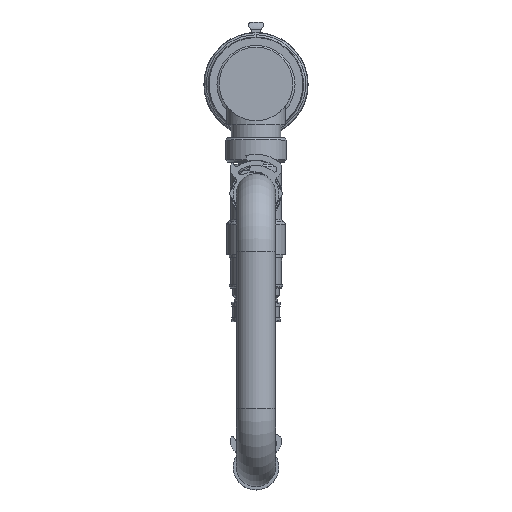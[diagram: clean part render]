
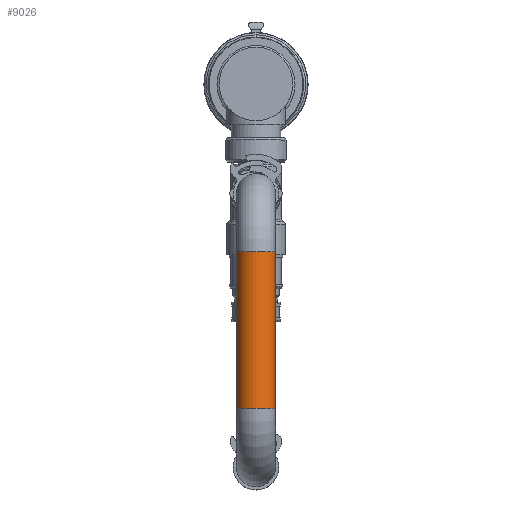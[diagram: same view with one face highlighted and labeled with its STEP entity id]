
A CAD part, top view. The second image highlights one B-rep face of the part: STEP entity #9026.
In plain terms, the highlighted cylindrical face has radius 12.7 mm (diameter 25.4 mm), a full revolution.
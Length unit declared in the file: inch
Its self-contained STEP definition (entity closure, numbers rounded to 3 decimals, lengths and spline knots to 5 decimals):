
#361 = CARTESIAN_POINT ( 'NONE',  ( 0., -4.29175, 7.75 ) ) ;
#490 = DIRECTION ( 'NONE',  ( -1., 0., 0. ) ) ;
#590 = AXIS2_PLACEMENT_3D ( 'NONE', #361, #13693, #2265 ) ;
#1848 = ORIENTED_EDGE ( 'NONE', *, *, #20437, .F. ) ;
#2265 = DIRECTION ( 'NONE',  ( 1., 0., 0. ) ) ;
#4471 = VERTEX_POINT ( 'NONE', #22840 ) ;
#6093 = CARTESIAN_POINT ( 'NONE',  ( 0., -4.29175, 7.75 ) ) ;
#8954 = DIRECTION ( 'NONE',  ( 0., 1., 0. ) ) ;
#9026 = ADVANCED_FACE ( 'NONE', ( #18576, #19770 ), #23050, .T. ) ;
#10255 = ORIENTED_EDGE ( 'NONE', *, *, #13509, .T. ) ;
#12325 = AXIS2_PLACEMENT_3D ( 'NONE', #6093, #21473, #490 ) ;
#13509 = EDGE_CURVE ( 'NONE', #17049, #17049, #15330, .T. ) ;
#13693 = DIRECTION ( 'NONE',  ( 0., 1., 0. ) ) ;
#14859 = EDGE_LOOP ( 'NONE', ( #1848 ) ) ;
#15330 = CIRCLE ( 'NONE', #15360, 0.5 ) ;
#15360 = AXIS2_PLACEMENT_3D ( 'NONE', #20429, #8954, #22334 ) ;
#16402 = EDGE_LOOP ( 'NONE', ( #10255 ) ) ;
#16883 = CARTESIAN_POINT ( 'NONE',  ( 0.5, -8.29175, 7.75 ) ) ;
#17049 = VERTEX_POINT ( 'NONE', #16883 ) ;
#18576 = FACE_OUTER_BOUND ( 'NONE', #16402, .T. ) ;
#19770 = FACE_OUTER_BOUND ( 'NONE', #14859, .T. ) ;
#20429 = CARTESIAN_POINT ( 'NONE',  ( 0., -8.29175, 7.75 ) ) ;
#20437 = EDGE_CURVE ( 'NONE', #4471, #4471, #22031, .T. ) ;
#21473 = DIRECTION ( 'NONE',  ( 0., -1., 0. ) ) ;
#22031 = CIRCLE ( 'NONE', #590, 0.5 ) ;
#22334 = DIRECTION ( 'NONE',  ( 1., 0., 0. ) ) ;
#22840 = CARTESIAN_POINT ( 'NONE',  ( 0.5, -4.29175, 7.75 ) ) ;
#23050 = CYLINDRICAL_SURFACE ( 'NONE', #12325, 0.5 ) ;
